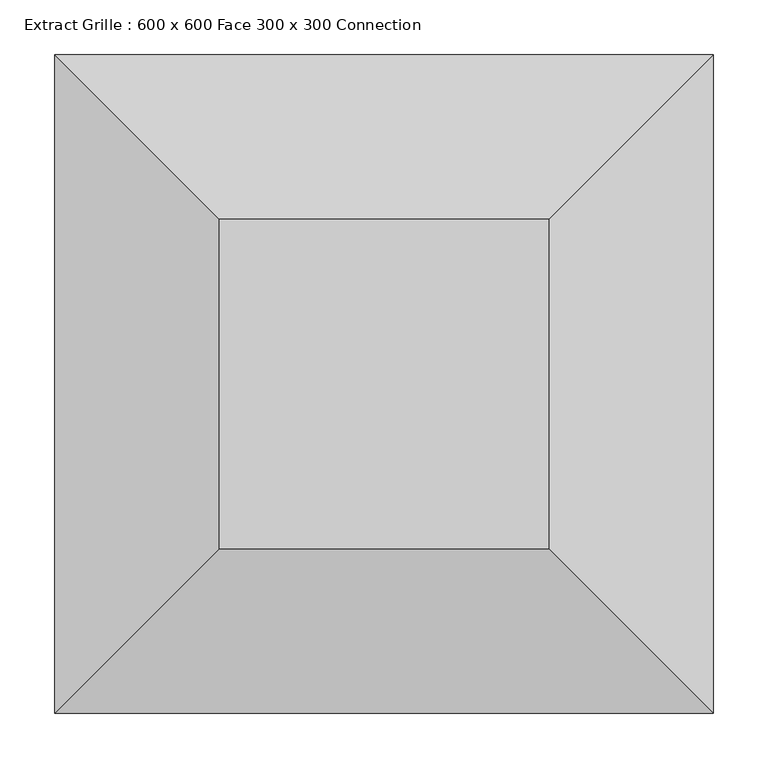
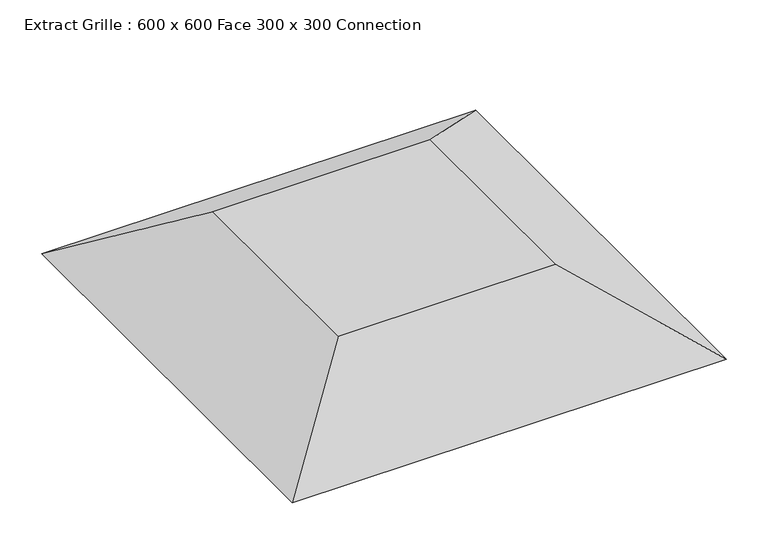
"""IFC4 building model written with IfcOpenShell, lengths in millimetres: air terminal geometry, Extract Grille : 600 x 600 Face 300 x 300 Connection."""

from ifc_helpers import new_model, si_unit, origin, place, context, project, spatial, faceted_brep, source, transform, mapped, element, save


def extract_grille_600_x_600_face_300_x_300_connection_8a0e72a1(model_context):
    return source(origin(), model_context, "Body", "Brep", [
        faceted_brep([(150.0, 150.0, 100.0), (-150.0, 150.0, 100.0), (-150.0, -150.0, 100.0), (150.0, -150.0, 100.0), (300.0, 300.0, 0.0), (300.0, -300.0, 0.0), (-300.0, -300.0, 0.0), (-300.0, 300.0, 0.0)], [[[0, 1, 2, 3]], [[4, 5, 6, 7]], [[4, 7, 1, 0]], [[7, 6, 2, 1]], [[6, 5, 3, 2]], [[5, 4, 0, 3]]]),
    ])


if __name__ == "__main__":
    model = new_model("IFC4")
    model_context = context("Model", 3, world=origin())
    ifc_project = project(units=[si_unit("LENGTHUNIT", "METRE", prefix="MILLI")], contexts=[model_context])
    site = spatial("IfcSite", under=ifc_project)
    building = spatial("IfcBuilding", under=site)
    placement = place(None, origin())
    extract_grille_600_x_600_face_300_x_300_connection_shape = extract_grille_600_x_600_face_300_x_300_connection_8a0e72a1(model_context)
    element("IfcAirTerminal", 1, ObjectType="Extract Grille : 600 x 600 Face 300 x 300 Connection", at=placement, inside=building, context=model_context, shape_type="MappedRepresentation", body=[
        mapped(extract_grille_600_x_600_face_300_x_300_connection_shape, transform((0.0, 0.0, 0.0), x_axis=(1.0, 0.0, 0.0), y_axis=(0.0, 1.0, 0.0), z_axis=(0.0, 0.0, 1.0))),
    ])
    save(model, "model.ifc")
